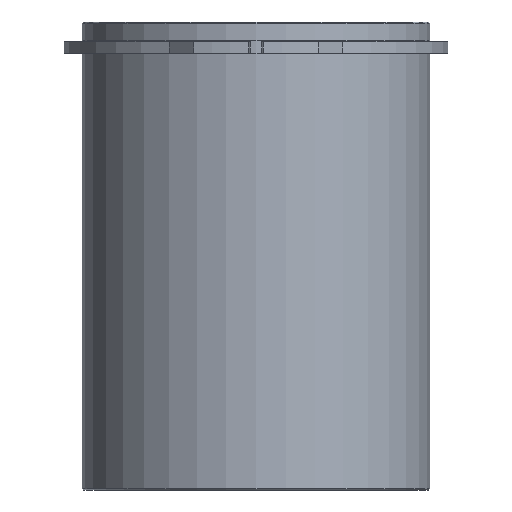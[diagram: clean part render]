
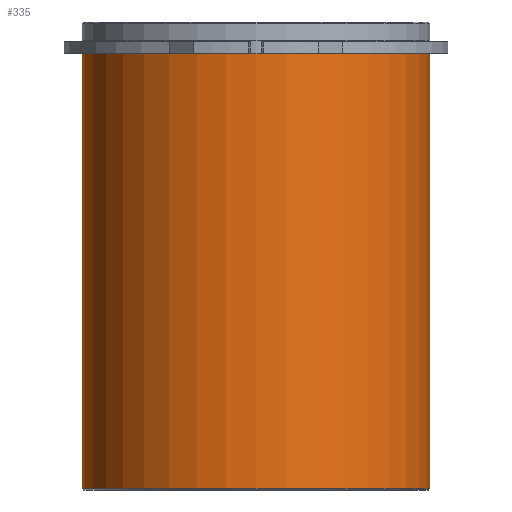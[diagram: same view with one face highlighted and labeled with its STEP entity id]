
A CAD part, front view. The second image highlights one B-rep face of the part: STEP entity #335.
In plain terms, the highlighted cylindrical face has radius 37.125 mm (diameter 74.25 mm), a partial arc.
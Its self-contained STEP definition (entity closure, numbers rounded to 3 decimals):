
#294=CARTESIAN_POINT('',(0.0,0.,-46.5));
#295=DIRECTION('',(0.0,0.,1.0));
#296=DIRECTION('',(1.0,0.0,0.0));
#297=AXIS2_PLACEMENT_3D('',#294,#295,#296);
#298=CYLINDRICAL_SURFACE('',#297,37.125);
#299=CARTESIAN_POINT('',(37.125,0.0,0.0));
#300=VERTEX_POINT('',#299);
#301=CARTESIAN_POINT('',(37.125,0.,-93.0));
#302=VERTEX_POINT('',#301);
#303=CARTESIAN_POINT('',(37.125,0.0,0.0));
#304=DIRECTION('',(0.0,0.0,-1.0));
#305=VECTOR('',#304,93.0);
#306=LINE('',#303,#305);
#307=EDGE_CURVE('',#300,#302,#306,.T.);
#308=ORIENTED_EDGE('',*,*,#307,.F.);
#309=CARTESIAN_POINT('',(-37.125,0.,0.0));
#310=VERTEX_POINT('',#309);
#311=CARTESIAN_POINT('',(0.0,0.0,0.0));
#312=DIRECTION('',(0.0,0.0,1.0));
#313=DIRECTION('',(1.0,0.0,0.0));
#314=AXIS2_PLACEMENT_3D('',#311,#312,#313);
#315=CIRCLE('',#314,37.125);
#316=EDGE_CURVE('',#310,#300,#315,.T.);
#317=ORIENTED_EDGE('',*,*,#316,.F.);
#318=CARTESIAN_POINT('',(-37.125,0.,-93.0));
#319=VERTEX_POINT('',#318);
#320=CARTESIAN_POINT('',(-37.125,0.,0.0));
#321=DIRECTION('',(0.0,0.0,-1.0));
#322=VECTOR('',#321,93.0);
#323=LINE('',#320,#322);
#324=EDGE_CURVE('',#310,#319,#323,.T.);
#325=ORIENTED_EDGE('',*,*,#324,.T.);
#326=CARTESIAN_POINT('',(0.0,0.,-93.0));
#327=DIRECTION('',(0.0,0.0,1.0));
#328=DIRECTION('',(1.0,0.0,0.0));
#329=AXIS2_PLACEMENT_3D('',#326,#327,#328);
#330=CIRCLE('',#329,37.125);
#331=EDGE_CURVE('',#319,#302,#330,.T.);
#332=ORIENTED_EDGE('',*,*,#331,.T.);
#333=EDGE_LOOP('',(#308,#317,#325,#332));
#334=FACE_OUTER_BOUND('',#333,.T.);
#335=ADVANCED_FACE('',(#334),#298,.T.);
